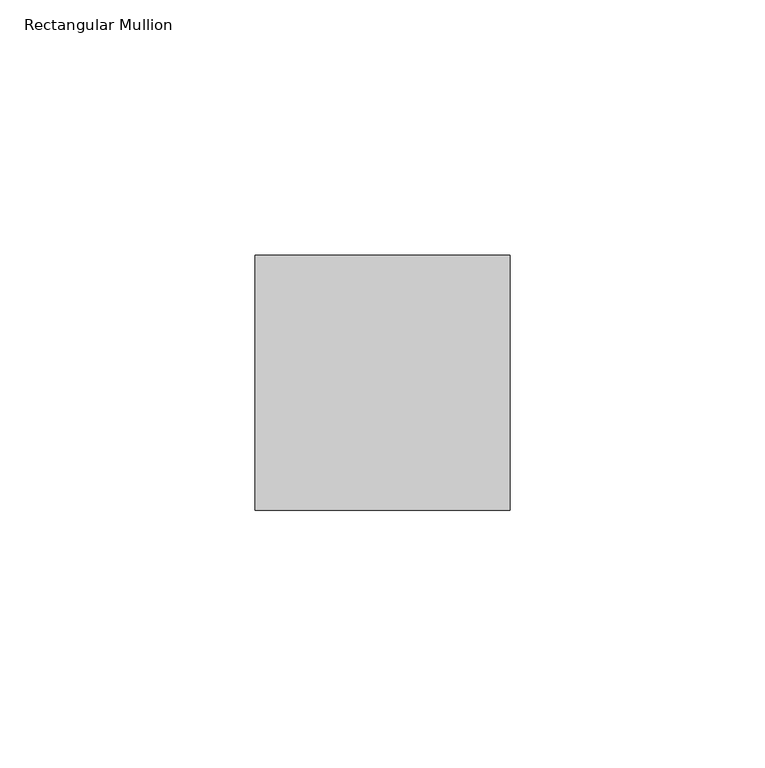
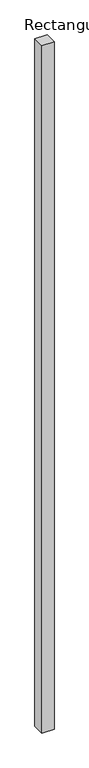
"""IFC4 building model written with IfcOpenShell, lengths in millimetres: member geometry, Rectangular Mullion : Batten_Aluminium_Modinex_AluBatten_50x50_AfricanEbony."""

from ifc_helpers import new_model, si_unit, frame, origin, place, context, project, spatial, polyline, outline, extrude, source, transform, mapped, element, save


def rectangular_mullion_1e7650be(model_context):
    return source(origin(), model_context, "Body", "SweptSolid", [
        extrude(outline(polyline([(25.0, 50.0), (25.0, 0.0), (-25.0, 0.0), (-25.0, 50.0), (25.0, 50.0)])), frame((0.0, 0.0, -3000.0), z_axis=(0.0, 0.0, 1.0), x_axis=(1.0, 0.0, 0.0)), (0.0, 0.0, 1.0), 3000.0),
    ])


if __name__ == "__main__":
    model = new_model("IFC4")
    model_context = context("Model", 3, world=origin())
    ifc_project = project(units=[si_unit("LENGTHUNIT", "METRE", prefix="MILLI")], contexts=[model_context])
    site = spatial("IfcSite", under=ifc_project)
    building = spatial("IfcBuilding", under=site)
    placement = place(None, origin())
    rectangular_mullion_shape = rectangular_mullion_1e7650be(model_context)
    element("IfcMember", 1, ObjectType="Rectangular Mullion : Batten_Aluminium_Modinex_AluBatten_50x50_AfricanEbony", at=placement, inside=building, context=model_context, shape_type="MappedRepresentation", body=[
        mapped(rectangular_mullion_shape, transform((0.0, 0.0, 0.0), x_axis=(1.0, 0.0, 0.0), y_axis=(0.0, 1.0, 0.0), z_axis=(0.0, 0.0, 1.0))),
    ])
    save(model, "model.ifc")
